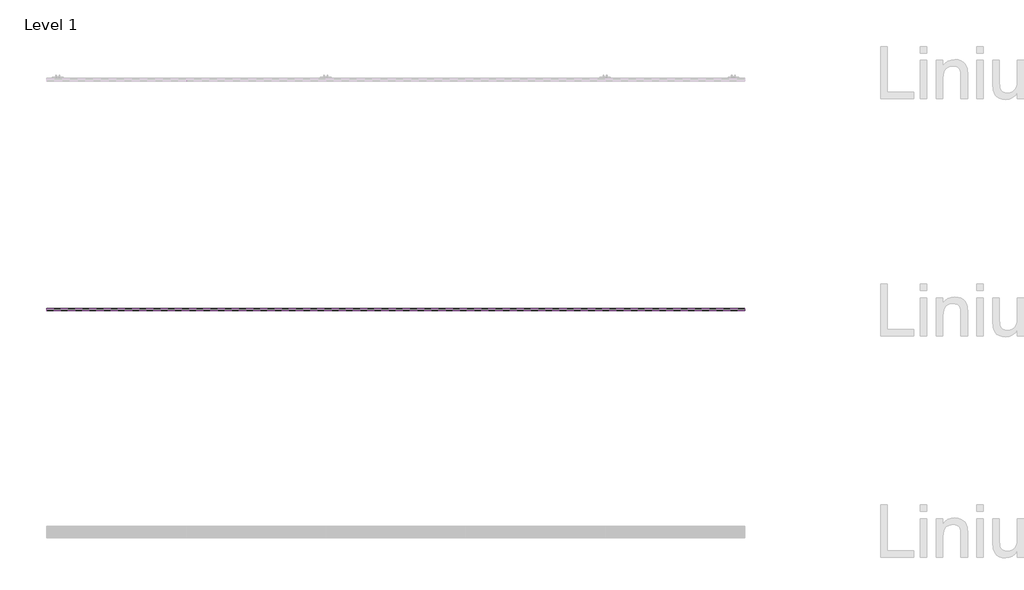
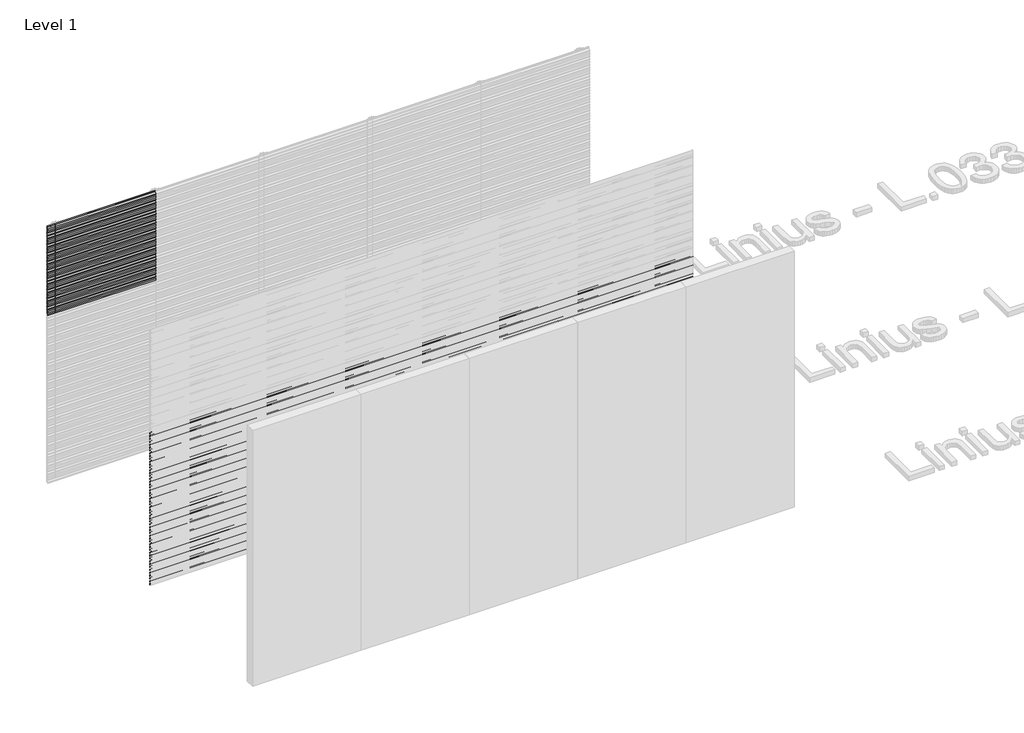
# One storey, part 12 of 507: 85 proxies.
"""IFC4 building model written with IfcOpenShell, lengths in millimetres."""

from ifc_helpers import new_model, si_unit, frame, origin, place, context, project, spatial, polyline, outline, extrude, element, save

model = new_model("IFC4")

# Units and contexts
model_context = context("Model", 3, world=origin())
ifc_project = project(units=[si_unit("LENGTHUNIT", "METRE", prefix="MILLI")], contexts=[model_context])

# Site, building, storey
site = spatial("IfcSite", under=ifc_project)
building = spatial("IfcBuilding", under=site)
storey = spatial("IfcBuildingStorey", under=building, Name="Level 1", Elevation=0.0)

# Proxies
placement = place(None, origin())
element("IfcBuildingElementProxy", 1, Name="Wall Sweeps", at=placement, inside=storey, context=model_context, shape_type="SweptSolid", body=[
    extrude(outline(polyline([(6962.6270068, 2973.0), (6981.7770068, 2984.0562577), (6981.7770068, 2997.0), (6983.0270068, 2997.0), (6983.0270068, 2983.3345698), (6963.8770068, 2972.2782281), (6963.8770068, 2960.2216933), (6962.6270068, 2959.5), (6962.6270068, 2973.0)])), frame((44966.6208097, 0.0, 0.0), z_axis=(1.0, 0.0, 0.0), x_axis=(0.0, 1.0, 0.0)), (0.0, 0.0, 1.0), 1200.0000002),
])
element("IfcBuildingElementProxy", 2, Name="Wall Sweeps", at=placement, inside=storey, context=model_context, shape_type="SweptSolid", body=[
    extrude(outline(polyline([(6962.6270068, 2939.7), (6981.7770068, 2950.7562577), (6981.7770068, 2963.7), (6983.0270068, 2963.7), (6983.0270068, 2950.0345698), (6963.8770068, 2938.9782281), (6963.8770068, 2926.9216933), (6962.6270068, 2926.2), (6962.6270068, 2939.7)])), frame((44966.6208097, 0.0, 0.0), z_axis=(1.0, 0.0, 0.0), x_axis=(0.0, 1.0, 0.0)), (0.0, 0.0, 1.0), 1200.0000002),
])
element("IfcBuildingElementProxy", 3, Name="Wall Sweeps", at=placement, inside=storey, context=model_context, shape_type="SweptSolid", body=[
    extrude(outline(polyline([(6962.6270068, 2906.4), (6981.7770068, 2917.4562577), (6981.7770068, 2930.4), (6983.0270068, 2930.4), (6983.0270068, 2916.7345698), (6963.8770068, 2905.6782281), (6963.8770068, 2893.6216933), (6962.6270068, 2892.9), (6962.6270068, 2906.4)])), frame((44966.6208097, 0.0, 0.0), z_axis=(1.0, 0.0, 0.0), x_axis=(0.0, 1.0, 0.0)), (0.0, 0.0, 1.0), 1200.0000002),
])
element("IfcBuildingElementProxy", 4, Name="Wall Sweeps", at=placement, inside=storey, context=model_context, shape_type="SweptSolid", body=[
    extrude(outline(polyline([(6962.6270068, 2873.1), (6981.7770068, 2884.1562577), (6981.7770068, 2897.1), (6983.0270068, 2897.1), (6983.0270068, 2883.4345698), (6963.8770068, 2872.3782281), (6963.8770068, 2860.3216933), (6962.6270068, 2859.6), (6962.6270068, 2873.1)])), frame((44966.6208097, 0.0, 0.0), z_axis=(1.0, 0.0, 0.0), x_axis=(0.0, 1.0, 0.0)), (0.0, 0.0, 1.0), 1200.0000002),
])
element("IfcBuildingElementProxy", 5, Name="Wall Sweeps", at=placement, inside=storey, context=model_context, shape_type="SweptSolid", body=[
    extrude(outline(polyline([(6962.6270068, 2839.8), (6981.7770068, 2850.8562577), (6981.7770068, 2863.8), (6983.0270068, 2863.8), (6983.0270068, 2850.1345698), (6963.8770068, 2839.0782281), (6963.8770068, 2827.0216933), (6962.6270068, 2826.3), (6962.6270068, 2839.8)])), frame((44966.6208097, 0.0, 0.0), z_axis=(1.0, 0.0, 0.0), x_axis=(0.0, 1.0, 0.0)), (0.0, 0.0, 1.0), 1200.0000002),
])
element("IfcBuildingElementProxy", 6, Name="Wall Sweeps", at=placement, inside=storey, context=model_context, shape_type="SweptSolid", body=[
    extrude(outline(polyline([(6962.6270068, 2806.5), (6981.7770068, 2817.5562577), (6981.7770068, 2830.5), (6983.0270068, 2830.5), (6983.0270068, 2816.8345698), (6963.8770068, 2805.7782281), (6963.8770068, 2793.7216933), (6962.6270068, 2793.0), (6962.6270068, 2806.5)])), frame((44966.6208097, 0.0, 0.0), z_axis=(1.0, 0.0, 0.0), x_axis=(0.0, 1.0, 0.0)), (0.0, 0.0, 1.0), 1200.0000002),
])
element("IfcBuildingElementProxy", 7, Name="Wall Sweeps", at=placement, inside=storey, context=model_context, shape_type="SweptSolid", body=[
    extrude(outline(polyline([(6962.6270068, 2773.2), (6981.7770068, 2784.2562577), (6981.7770068, 2797.2), (6983.0270068, 2797.2), (6983.0270068, 2783.5345698), (6963.8770068, 2772.4782281), (6963.8770068, 2760.4216933), (6962.6270068, 2759.7), (6962.6270068, 2773.2)])), frame((44966.6208097, 0.0, 0.0), z_axis=(1.0, 0.0, 0.0), x_axis=(0.0, 1.0, 0.0)), (0.0, 0.0, 1.0), 1200.0000002),
])
element("IfcBuildingElementProxy", 8, Name="Wall Sweeps", at=placement, inside=storey, context=model_context, shape_type="SweptSolid", body=[
    extrude(outline(polyline([(6962.6270068, 2739.9), (6981.7770068, 2750.9562577), (6981.7770068, 2763.9), (6983.0270068, 2763.9), (6983.0270068, 2750.2345698), (6963.8770068, 2739.1782281), (6963.8770068, 2727.1216933), (6962.6270068, 2726.4), (6962.6270068, 2739.9)])), frame((44966.6208097, 0.0, 0.0), z_axis=(1.0, 0.0, 0.0), x_axis=(0.0, 1.0, 0.0)), (0.0, 0.0, 1.0), 1200.0000002),
])
element("IfcBuildingElementProxy", 9, Name="Wall Sweeps", at=placement, inside=storey, context=model_context, shape_type="SweptSolid", body=[
    extrude(outline(polyline([(6962.6270068, 2706.6), (6981.7770068, 2717.6562577), (6981.7770068, 2730.6), (6983.0270068, 2730.6), (6983.0270068, 2716.9345698), (6963.8770068, 2705.8782281), (6963.8770068, 2693.8216933), (6962.6270068, 2693.1), (6962.6270068, 2706.6)])), frame((44966.6208097, 0.0, 0.0), z_axis=(1.0, 0.0, 0.0), x_axis=(0.0, 1.0, 0.0)), (0.0, 0.0, 1.0), 1200.0000002),
])
element("IfcBuildingElementProxy", 10, Name="Wall Sweeps", at=placement, inside=storey, context=model_context, shape_type="SweptSolid", body=[
    extrude(outline(polyline([(6962.6270068, 2673.3), (6981.7770068, 2684.3562577), (6981.7770068, 2697.3), (6983.0270068, 2697.3), (6983.0270068, 2683.6345698), (6963.8770068, 2672.5782281), (6963.8770068, 2660.5216933), (6962.6270068, 2659.8), (6962.6270068, 2673.3)])), frame((44966.6208097, 0.0, 0.0), z_axis=(1.0, 0.0, 0.0), x_axis=(0.0, 1.0, 0.0)), (0.0, 0.0, 1.0), 1200.0000002),
])
element("IfcBuildingElementProxy", 11, Name="Wall Sweeps", at=placement, inside=storey, context=model_context, shape_type="SweptSolid", body=[
    extrude(outline(polyline([(6962.6270068, 2640.0), (6981.7770068, 2651.0562577), (6981.7770068, 2664.0), (6983.0270068, 2664.0), (6983.0270068, 2650.3345698), (6963.8770068, 2639.2782281), (6963.8770068, 2627.2216933), (6962.6270068, 2626.5), (6962.6270068, 2640.0)])), frame((44966.6208097, 0.0, 0.0), z_axis=(1.0, 0.0, 0.0), x_axis=(0.0, 1.0, 0.0)), (0.0, 0.0, 1.0), 1200.0000002),
])
element("IfcBuildingElementProxy", 12, Name="Wall Sweeps", at=placement, inside=storey, context=model_context, shape_type="SweptSolid", body=[
    extrude(outline(polyline([(6962.6270068, 2606.7), (6981.7770068, 2617.7562577), (6981.7770068, 2630.7), (6983.0270068, 2630.7), (6983.0270068, 2617.0345698), (6963.8770068, 2605.9782281), (6963.8770068, 2593.9216933), (6962.6270068, 2593.2), (6962.6270068, 2606.7)])), frame((44966.6208097, 0.0, 0.0), z_axis=(1.0, 0.0, 0.0), x_axis=(0.0, 1.0, 0.0)), (0.0, 0.0, 1.0), 1200.0000002),
])
element("IfcBuildingElementProxy", 13, Name="Wall Sweeps", at=placement, inside=storey, context=model_context, shape_type="SweptSolid", body=[
    extrude(outline(polyline([(6962.6270068, 2573.4), (6981.7770068, 2584.4562577), (6981.7770068, 2597.4), (6983.0270068, 2597.4), (6983.0270068, 2583.7345698), (6963.8770068, 2572.6782281), (6963.8770068, 2560.6216933), (6962.6270068, 2559.9), (6962.6270068, 2573.4)])), frame((44966.6208097, 0.0, 0.0), z_axis=(1.0, 0.0, 0.0), x_axis=(0.0, 1.0, 0.0)), (0.0, 0.0, 1.0), 1200.0000002),
])
element("IfcBuildingElementProxy", 14, Name="Wall Sweeps", at=placement, inside=storey, context=model_context, shape_type="SweptSolid", body=[
    extrude(outline(polyline([(6962.6270068, 2540.1), (6981.7770068, 2551.1562577), (6981.7770068, 2564.1), (6983.0270068, 2564.1), (6983.0270068, 2550.4345698), (6963.8770068, 2539.3782281), (6963.8770068, 2527.3216933), (6962.6270068, 2526.6), (6962.6270068, 2540.1)])), frame((44966.6208097, 0.0, 0.0), z_axis=(1.0, 0.0, 0.0), x_axis=(0.0, 1.0, 0.0)), (0.0, 0.0, 1.0), 1200.0000002),
])
element("IfcBuildingElementProxy", 15, Name="Wall Sweeps", at=placement, inside=storey, context=model_context, shape_type="SweptSolid", body=[
    extrude(outline(polyline([(6962.6270068, 2506.8), (6981.7770068, 2517.8562577), (6981.7770068, 2530.8), (6983.0270068, 2530.8), (6983.0270068, 2517.1345698), (6963.8770068, 2506.0782281), (6963.8770068, 2494.0216933), (6962.6270068, 2493.3), (6962.6270068, 2506.8)])), frame((44966.6208097, 0.0, 0.0), z_axis=(1.0, 0.0, 0.0), x_axis=(0.0, 1.0, 0.0)), (0.0, 0.0, 1.0), 1200.0000002),
])
element("IfcBuildingElementProxy", 16, Name="Wall Sweeps", at=placement, inside=storey, context=model_context, shape_type="SweptSolid", body=[
    extrude(outline(polyline([(6962.6270068, 2473.5), (6981.7770068, 2484.5562577), (6981.7770068, 2497.5), (6983.0270068, 2497.5), (6983.0270068, 2483.8345698), (6963.8770068, 2472.7782281), (6963.8770068, 2460.7216933), (6962.6270068, 2460.0), (6962.6270068, 2473.5)])), frame((44966.6208097, 0.0, 0.0), z_axis=(1.0, 0.0, 0.0), x_axis=(0.0, 1.0, 0.0)), (0.0, 0.0, 1.0), 1200.0000002),
])
element("IfcBuildingElementProxy", 17, Name="Wall Sweeps", at=placement, inside=storey, context=model_context, shape_type="SweptSolid", body=[
    extrude(outline(polyline([(6962.6270068, 2440.2), (6981.7770068, 2451.2562577), (6981.7770068, 2464.2), (6983.0270068, 2464.2), (6983.0270068, 2450.5345698), (6963.8770068, 2439.4782281), (6963.8770068, 2427.4216933), (6962.6270068, 2426.7), (6962.6270068, 2440.2)])), frame((44966.6208097, 0.0, 0.0), z_axis=(1.0, 0.0, 0.0), x_axis=(0.0, 1.0, 0.0)), (0.0, 0.0, 1.0), 1200.0000002),
])
element("IfcBuildingElementProxy", 18, Name="Wall Sweeps", at=placement, inside=storey, context=model_context, shape_type="SweptSolid", body=[
    extrude(outline(polyline([(6962.6270068, 2406.9), (6981.7770068, 2417.9562577), (6981.7770068, 2430.9), (6983.0270068, 2430.9), (6983.0270068, 2417.2345698), (6963.8770068, 2406.1782281), (6963.8770068, 2394.1216933), (6962.6270068, 2393.4), (6962.6270068, 2406.9)])), frame((44966.6208097, 0.0, 0.0), z_axis=(1.0, 0.0, 0.0), x_axis=(0.0, 1.0, 0.0)), (0.0, 0.0, 1.0), 1200.0000002),
])
element("IfcBuildingElementProxy", 19, Name="Wall Sweeps", at=placement, inside=storey, context=model_context, shape_type="SweptSolid", body=[
    extrude(outline(polyline([(6962.6270068, 2373.6), (6981.7770068, 2384.6562577), (6981.7770068, 2397.6), (6983.0270068, 2397.6), (6983.0270068, 2383.9345698), (6963.8770068, 2372.8782281), (6963.8770068, 2360.8216933), (6962.6270068, 2360.1), (6962.6270068, 2373.6)])), frame((44966.6208097, 0.0, 0.0), z_axis=(1.0, 0.0, 0.0), x_axis=(0.0, 1.0, 0.0)), (0.0, 0.0, 1.0), 1200.0000002),
])
element("IfcBuildingElementProxy", 20, Name="Wall Sweeps", at=placement, inside=storey, context=model_context, shape_type="SweptSolid", body=[
    extrude(outline(polyline([(6962.6270068, 2340.3), (6981.7770068, 2351.3562577), (6981.7770068, 2364.3), (6983.0270068, 2364.3), (6983.0270068, 2350.6345698), (6963.8770068, 2339.5782281), (6963.8770068, 2327.5216933), (6962.6270068, 2326.8), (6962.6270068, 2340.3)])), frame((44966.6208097, 0.0, 0.0), z_axis=(1.0, 0.0, 0.0), x_axis=(0.0, 1.0, 0.0)), (0.0, 0.0, 1.0), 1200.0000002),
])
element("IfcBuildingElementProxy", 21, Name="Wall Sweeps", at=placement, inside=storey, context=model_context, shape_type="SweptSolid", body=[
    extrude(outline(polyline([(6962.6270068, 2307.0), (6981.7770068, 2318.0562577), (6981.7770068, 2331.0), (6983.0270068, 2331.0), (6983.0270068, 2317.3345698), (6963.8770068, 2306.2782281), (6963.8770068, 2294.2216933), (6962.6270068, 2293.5), (6962.6270068, 2307.0)])), frame((44966.6208097, 0.0, 0.0), z_axis=(1.0, 0.0, 0.0), x_axis=(0.0, 1.0, 0.0)), (0.0, 0.0, 1.0), 1200.0000002),
])
element("IfcBuildingElementProxy", 22, Name="Wall Sweeps", at=placement, inside=storey, context=model_context, shape_type="SweptSolid", body=[
    extrude(outline(polyline([(6962.6270068, 2273.7), (6981.7770068, 2284.7562577), (6981.7770068, 2297.7), (6983.0270068, 2297.7), (6983.0270068, 2284.0345698), (6963.8770068, 2272.9782281), (6963.8770068, 2260.9216933), (6962.6270068, 2260.2), (6962.6270068, 2273.7)])), frame((44966.6208097, 0.0, 0.0), z_axis=(1.0, 0.0, 0.0), x_axis=(0.0, 1.0, 0.0)), (0.0, 0.0, 1.0), 1200.0000002),
])
element("IfcBuildingElementProxy", 23, Name="Wall Sweeps", at=placement, inside=storey, context=model_context, shape_type="SweptSolid", body=[
    extrude(outline(polyline([(6962.6270068, 2240.4), (6981.7770068, 2251.4562577), (6981.7770068, 2264.4), (6983.0270068, 2264.4), (6983.0270068, 2250.7345698), (6963.8770068, 2239.6782281), (6963.8770068, 2227.6216933), (6962.6270068, 2226.9), (6962.6270068, 2240.4)])), frame((44966.6208097, 0.0, 0.0), z_axis=(1.0, 0.0, 0.0), x_axis=(0.0, 1.0, 0.0)), (0.0, 0.0, 1.0), 1200.0000002),
])
element("IfcBuildingElementProxy", 24, Name="Wall Sweeps", at=placement, inside=storey, context=model_context, shape_type="SweptSolid", body=[
    extrude(outline(polyline([(6962.6270068, 2207.1), (6981.7770068, 2218.1562577), (6981.7770068, 2231.1), (6983.0270068, 2231.1), (6983.0270068, 2217.4345698), (6963.8770068, 2206.3782281), (6963.8770068, 2194.3216933), (6962.6270068, 2193.6), (6962.6270068, 2207.1)])), frame((44966.6208097, 0.0, 0.0), z_axis=(1.0, 0.0, 0.0), x_axis=(0.0, 1.0, 0.0)), (0.0, 0.0, 1.0), 1200.0000002),
])
element("IfcBuildingElementProxy", 25, Name="Wall Sweeps", at=placement, inside=storey, context=model_context, shape_type="SweptSolid", body=[
    extrude(outline(polyline([(6962.6270068, 2173.8), (6981.7770068, 2184.8562577), (6981.7770068, 2197.8), (6983.0270068, 2197.8), (6983.0270068, 2184.1345698), (6963.8770068, 2173.0782281), (6963.8770068, 2161.0216933), (6962.6270068, 2160.3), (6962.6270068, 2173.8)])), frame((44966.6208097, 0.0, 0.0), z_axis=(1.0, 0.0, 0.0), x_axis=(0.0, 1.0, 0.0)), (0.0, 0.0, 1.0), 1200.0000002),
])
element("IfcBuildingElementProxy", 26, Name="Wall Sweeps", at=placement, inside=storey, context=model_context, shape_type="SweptSolid", body=[
    extrude(outline(polyline([(6962.6270068, 2140.5), (6981.7770068, 2151.5562577), (6981.7770068, 2164.5), (6983.0270068, 2164.5), (6983.0270068, 2150.8345698), (6963.8770068, 2139.7782281), (6963.8770068, 2127.7216933), (6962.6270068, 2127.0), (6962.6270068, 2140.5)])), frame((44966.6208097, 0.0, 0.0), z_axis=(1.0, 0.0, 0.0), x_axis=(0.0, 1.0, 0.0)), (0.0, 0.0, 1.0), 1200.0000002),
])
element("IfcBuildingElementProxy", 27, Name="Wall Sweeps", at=placement, inside=storey, context=model_context, shape_type="SweptSolid", body=[
    extrude(outline(polyline([(6962.6270068, 2107.2), (6981.7770068, 2118.2562577), (6981.7770068, 2131.2), (6983.0270068, 2131.2), (6983.0270068, 2117.5345698), (6963.8770068, 2106.4782281), (6963.8770068, 2094.4216933), (6962.6270068, 2093.7), (6962.6270068, 2107.2)])), frame((44966.6208097, 0.0, 0.0), z_axis=(1.0, 0.0, 0.0), x_axis=(0.0, 1.0, 0.0)), (0.0, 0.0, 1.0), 1200.0000002),
])
element("IfcBuildingElementProxy", 28, Name="Wall Sweeps", at=placement, inside=storey, context=model_context, shape_type="SweptSolid", body=[
    extrude(outline(polyline([(6962.6270068, 2073.9), (6981.7770068, 2084.9562577), (6981.7770068, 2097.9), (6983.0270068, 2097.9), (6983.0270068, 2084.2345698), (6963.8770068, 2073.1782281), (6963.8770068, 2061.1216933), (6962.6270068, 2060.4), (6962.6270068, 2073.9)])), frame((44966.6208097, 0.0, 0.0), z_axis=(1.0, 0.0, 0.0), x_axis=(0.0, 1.0, 0.0)), (0.0, 0.0, 1.0), 1200.0000002),
])
element("IfcBuildingElementProxy", 29, Name="Wall Sweeps", at=placement, inside=storey, context=model_context, shape_type="SweptSolid", body=[
    extrude(outline(polyline([(6962.6270068, 2040.6), (6981.7770068, 2051.6562577), (6981.7770068, 2064.6), (6983.0270068, 2064.6), (6983.0270068, 2050.9345698), (6963.8770068, 2039.8782281), (6963.8770068, 2027.8216933), (6962.6270068, 2027.1), (6962.6270068, 2040.6)])), frame((44966.6208097, 0.0, 0.0), z_axis=(1.0, 0.0, 0.0), x_axis=(0.0, 1.0, 0.0)), (0.0, 0.0, 1.0), 1200.0000002),
])
element("IfcBuildingElementProxy", 30, Name="Wall Sweeps", at=placement, inside=storey, context=model_context, shape_type="SweptSolid", body=[
    extrude(outline(polyline([(6962.6270068, 2007.3), (6981.7770068, 2018.3562577), (6981.7770068, 2031.3), (6983.0270068, 2031.3), (6983.0270068, 2017.6345698), (6963.8770068, 2006.5782281), (6963.8770068, 1994.5216933), (6962.6270068, 1993.8), (6962.6270068, 2007.3)])), frame((44966.6208097, 0.0, 0.0), z_axis=(1.0, 0.0, 0.0), x_axis=(0.0, 1.0, 0.0)), (0.0, 0.0, 1.0), 1200.0000002),
])
element("IfcBuildingElementProxy", 31, Name="Wall Sweeps", at=placement, inside=storey, context=model_context, shape_type="SweptSolid", body=[
    extrude(outline(polyline([(6962.6270068, 1974.0), (6981.7770068, 1985.0562577), (6981.7770068, 1998.0), (6983.0270068, 1998.0), (6983.0270068, 1984.3345698), (6963.8770068, 1973.2782281), (6963.8770068, 1961.2216933), (6962.6270068, 1960.5), (6962.6270068, 1974.0)])), frame((44966.6208097, 0.0, 0.0), z_axis=(1.0, 0.0, 0.0), x_axis=(0.0, 1.0, 0.0)), (0.0, 0.0, 1.0), 1200.0000002),
])
element("IfcBuildingElementProxy", 32, Name="Wall Sweeps", at=placement, inside=storey, context=model_context, shape_type="SweptSolid", body=[
    extrude(outline(polyline([(5007.4270068, 1774.2), (5007.4270068, 1760.7), (5006.1770068, 1761.4216933), (5006.1770068, 1773.4782281), (4987.0270068, 1784.5345698), (4987.0270068, 1798.2), (4988.2770068, 1798.2), (4988.2770068, 1785.2562577), (5007.4270068, 1774.2)])), frame((44966.6208097, 0.0, 0.0), z_axis=(1.0, 0.0, 0.0), x_axis=(0.0, 1.0, 0.0)), (0.0, 0.0, 1.0), 6000.0),
])
element("IfcBuildingElementProxy", 33, Name="Wall Sweeps", at=placement, inside=storey, context=model_context, shape_type="SweptSolid", body=[
    extrude(outline(polyline([(5007.4270068, 1740.9), (5007.4270068, 1727.4), (5006.1770068, 1728.1216933), (5006.1770068, 1740.1782281), (4987.0270068, 1751.2345698), (4987.0270068, 1764.9), (4988.2770068, 1764.9), (4988.2770068, 1751.9562577), (5007.4270068, 1740.9)])), frame((44966.6208097, 0.0, 0.0), z_axis=(1.0, 0.0, 0.0), x_axis=(0.0, 1.0, 0.0)), (0.0, 0.0, 1.0), 6000.0),
])
element("IfcBuildingElementProxy", 34, Name="Wall Sweeps", at=placement, inside=storey, context=model_context, shape_type="SweptSolid", body=[
    extrude(outline(polyline([(5007.4270068, 1707.6), (5007.4270068, 1694.1), (5006.1770068, 1694.8216933), (5006.1770068, 1706.8782281), (4987.0270068, 1717.9345698), (4987.0270068, 1731.6), (4988.2770068, 1731.6), (4988.2770068, 1718.6562577), (5007.4270068, 1707.6)])), frame((44966.6208097, 0.0, 0.0), z_axis=(1.0, 0.0, 0.0), x_axis=(0.0, 1.0, 0.0)), (0.0, 0.0, 1.0), 6000.0),
])
element("IfcBuildingElementProxy", 35, Name="Wall Sweeps", at=placement, inside=storey, context=model_context, shape_type="SweptSolid", body=[
    extrude(outline(polyline([(5007.4270068, 1674.3), (5007.4270068, 1660.8), (5006.1770068, 1661.5216933), (5006.1770068, 1673.5782281), (4987.0270068, 1684.6345698), (4987.0270068, 1698.3), (4988.2770068, 1698.3), (4988.2770068, 1685.3562577), (5007.4270068, 1674.3)])), frame((44966.6208097, 0.0, 0.0), z_axis=(1.0, 0.0, 0.0), x_axis=(0.0, 1.0, 0.0)), (0.0, 0.0, 1.0), 6000.0),
])
element("IfcBuildingElementProxy", 36, Name="Wall Sweeps", at=placement, inside=storey, context=model_context, shape_type="SweptSolid", body=[
    extrude(outline(polyline([(5007.4270068, 1641.0), (5007.4270068, 1627.5), (5006.1770068, 1628.2216933), (5006.1770068, 1640.2782281), (4987.0270068, 1651.3345698), (4987.0270068, 1665.0), (4988.2770068, 1665.0), (4988.2770068, 1652.0562577), (5007.4270068, 1641.0)])), frame((44966.6208097, 0.0, 0.0), z_axis=(1.0, 0.0, 0.0), x_axis=(0.0, 1.0, 0.0)), (0.0, 0.0, 1.0), 6000.0),
])
element("IfcBuildingElementProxy", 37, Name="Wall Sweeps", at=placement, inside=storey, context=model_context, shape_type="SweptSolid", body=[
    extrude(outline(polyline([(5007.4270068, 1607.7), (5007.4270068, 1594.2), (5006.1770068, 1594.9216933), (5006.1770068, 1606.9782281), (4987.0270068, 1618.0345698), (4987.0270068, 1631.7), (4988.2770068, 1631.7), (4988.2770068, 1618.7562577), (5007.4270068, 1607.7)])), frame((44966.6208097, 0.0, 0.0), z_axis=(1.0, 0.0, 0.0), x_axis=(0.0, 1.0, 0.0)), (0.0, 0.0, 1.0), 6000.0),
])
element("IfcBuildingElementProxy", 38, Name="Wall Sweeps", at=placement, inside=storey, context=model_context, shape_type="SweptSolid", body=[
    extrude(outline(polyline([(5007.4270068, 1574.4), (5007.4270068, 1560.9), (5006.1770068, 1561.6216933), (5006.1770068, 1573.6782281), (4987.0270068, 1584.7345698), (4987.0270068, 1598.4), (4988.2770068, 1598.4), (4988.2770068, 1585.4562577), (5007.4270068, 1574.4)])), frame((44966.6208097, 0.0, 0.0), z_axis=(1.0, 0.0, 0.0), x_axis=(0.0, 1.0, 0.0)), (0.0, 0.0, 1.0), 6000.0),
])
element("IfcBuildingElementProxy", 39, Name="Wall Sweeps", at=placement, inside=storey, context=model_context, shape_type="SweptSolid", body=[
    extrude(outline(polyline([(5007.4270068, 1541.1), (5007.4270068, 1527.6), (5006.1770068, 1528.3216933), (5006.1770068, 1540.3782281), (4987.0270068, 1551.4345698), (4987.0270068, 1565.1), (4988.2770068, 1565.1), (4988.2770068, 1552.1562577), (5007.4270068, 1541.1)])), frame((44966.6208097, 0.0, 0.0), z_axis=(1.0, 0.0, 0.0), x_axis=(0.0, 1.0, 0.0)), (0.0, 0.0, 1.0), 6000.0),
])
element("IfcBuildingElementProxy", 40, Name="Wall Sweeps", at=placement, inside=storey, context=model_context, shape_type="SweptSolid", body=[
    extrude(outline(polyline([(5007.4270068, 1507.8), (5007.4270068, 1494.3), (5006.1770068, 1495.0216933), (5006.1770068, 1507.0782281), (4987.0270068, 1518.1345698), (4987.0270068, 1531.8), (4988.2770068, 1531.8), (4988.2770068, 1518.8562577), (5007.4270068, 1507.8)])), frame((44966.6208097, 0.0, 0.0), z_axis=(1.0, 0.0, 0.0), x_axis=(0.0, 1.0, 0.0)), (0.0, 0.0, 1.0), 6000.0),
])
element("IfcBuildingElementProxy", 41, Name="Wall Sweeps", at=placement, inside=storey, context=model_context, shape_type="SweptSolid", body=[
    extrude(outline(polyline([(5007.4270068, 1474.5), (5007.4270068, 1461.0), (5006.1770068, 1461.7216933), (5006.1770068, 1473.7782281), (4987.0270068, 1484.8345698), (4987.0270068, 1498.5), (4988.2770068, 1498.5), (4988.2770068, 1485.5562577), (5007.4270068, 1474.5)])), frame((44966.6208097, 0.0, 0.0), z_axis=(1.0, 0.0, 0.0), x_axis=(0.0, 1.0, 0.0)), (0.0, 0.0, 1.0), 6000.0),
])
element("IfcBuildingElementProxy", 42, Name="Wall Sweeps", at=placement, inside=storey, context=model_context, shape_type="SweptSolid", body=[
    extrude(outline(polyline([(5007.4270068, 1441.2), (5007.4270068, 1427.7), (5006.1770068, 1428.4216933), (5006.1770068, 1440.4782281), (4987.0270068, 1451.5345698), (4987.0270068, 1465.2), (4988.2770068, 1465.2), (4988.2770068, 1452.2562577), (5007.4270068, 1441.2)])), frame((44966.6208097, 0.0, 0.0), z_axis=(1.0, 0.0, 0.0), x_axis=(0.0, 1.0, 0.0)), (0.0, 0.0, 1.0), 6000.0),
])
element("IfcBuildingElementProxy", 43, Name="Wall Sweeps", at=placement, inside=storey, context=model_context, shape_type="SweptSolid", body=[
    extrude(outline(polyline([(5007.4270068, 1407.9), (5007.4270068, 1394.4), (5006.1770068, 1395.1216933), (5006.1770068, 1407.1782281), (4987.0270068, 1418.2345698), (4987.0270068, 1431.9), (4988.2770068, 1431.9), (4988.2770068, 1418.9562577), (5007.4270068, 1407.9)])), frame((44966.6208097, 0.0, 0.0), z_axis=(1.0, 0.0, 0.0), x_axis=(0.0, 1.0, 0.0)), (0.0, 0.0, 1.0), 6000.0),
])
element("IfcBuildingElementProxy", 44, Name="Wall Sweeps", at=placement, inside=storey, context=model_context, shape_type="SweptSolid", body=[
    extrude(outline(polyline([(5007.4270068, 1374.6), (5007.4270068, 1361.1), (5006.1770068, 1361.8216933), (5006.1770068, 1373.8782281), (4987.0270068, 1384.9345698), (4987.0270068, 1398.6), (4988.2770068, 1398.6), (4988.2770068, 1385.6562577), (5007.4270068, 1374.6)])), frame((44966.6208097, 0.0, 0.0), z_axis=(1.0, 0.0, 0.0), x_axis=(0.0, 1.0, 0.0)), (0.0, 0.0, 1.0), 6000.0),
])
element("IfcBuildingElementProxy", 45, Name="Wall Sweeps", at=placement, inside=storey, context=model_context, shape_type="SweptSolid", body=[
    extrude(outline(polyline([(5007.4270068, 1341.3), (5007.4270068, 1327.8), (5006.1770068, 1328.5216933), (5006.1770068, 1340.5782281), (4987.0270068, 1351.6345698), (4987.0270068, 1365.3), (4988.2770068, 1365.3), (4988.2770068, 1352.3562577), (5007.4270068, 1341.3)])), frame((44966.6208097, 0.0, 0.0), z_axis=(1.0, 0.0, 0.0), x_axis=(0.0, 1.0, 0.0)), (0.0, 0.0, 1.0), 6000.0),
])
element("IfcBuildingElementProxy", 46, Name="Wall Sweeps", at=placement, inside=storey, context=model_context, shape_type="SweptSolid", body=[
    extrude(outline(polyline([(5007.4270068, 1308.0), (5007.4270068, 1294.5), (5006.1770068, 1295.2216933), (5006.1770068, 1307.2782281), (4987.0270068, 1318.3345698), (4987.0270068, 1332.0), (4988.2770068, 1332.0), (4988.2770068, 1319.0562577), (5007.4270068, 1308.0)])), frame((44966.6208097, 0.0, 0.0), z_axis=(1.0, 0.0, 0.0), x_axis=(0.0, 1.0, 0.0)), (0.0, 0.0, 1.0), 6000.0),
])
element("IfcBuildingElementProxy", 47, Name="Wall Sweeps", at=placement, inside=storey, context=model_context, shape_type="SweptSolid", body=[
    extrude(outline(polyline([(5007.4270068, 1274.7), (5007.4270068, 1261.2), (5006.1770068, 1261.9216933), (5006.1770068, 1273.9782281), (4987.0270068, 1285.0345698), (4987.0270068, 1298.7), (4988.2770068, 1298.7), (4988.2770068, 1285.7562577), (5007.4270068, 1274.7)])), frame((44966.6208097, 0.0, 0.0), z_axis=(1.0, 0.0, 0.0), x_axis=(0.0, 1.0, 0.0)), (0.0, 0.0, 1.0), 6000.0),
])
element("IfcBuildingElementProxy", 48, Name="Wall Sweeps", at=placement, inside=storey, context=model_context, shape_type="SweptSolid", body=[
    extrude(outline(polyline([(5007.4270068, 1241.4), (5007.4270068, 1227.9), (5006.1770068, 1228.6216933), (5006.1770068, 1240.6782281), (4987.0270068, 1251.7345698), (4987.0270068, 1265.4), (4988.2770068, 1265.4), (4988.2770068, 1252.4562577), (5007.4270068, 1241.4)])), frame((44966.6208097, 0.0, 0.0), z_axis=(1.0, 0.0, 0.0), x_axis=(0.0, 1.0, 0.0)), (0.0, 0.0, 1.0), 6000.0),
])
element("IfcBuildingElementProxy", 49, Name="Wall Sweeps", at=placement, inside=storey, context=model_context, shape_type="SweptSolid", body=[
    extrude(outline(polyline([(5007.4270068, 1208.1), (5007.4270068, 1194.6), (5006.1770068, 1195.3216933), (5006.1770068, 1207.3782281), (4987.0270068, 1218.4345698), (4987.0270068, 1232.1), (4988.2770068, 1232.1), (4988.2770068, 1219.1562577), (5007.4270068, 1208.1)])), frame((44966.6208097, 0.0, 0.0), z_axis=(1.0, 0.0, 0.0), x_axis=(0.0, 1.0, 0.0)), (0.0, 0.0, 1.0), 6000.0),
])
element("IfcBuildingElementProxy", 50, Name="Wall Sweeps", at=placement, inside=storey, context=model_context, shape_type="SweptSolid", body=[
    extrude(outline(polyline([(5007.4270068, 1174.8), (5007.4270068, 1161.3), (5006.1770068, 1162.0216933), (5006.1770068, 1174.0782281), (4987.0270068, 1185.1345698), (4987.0270068, 1198.8), (4988.2770068, 1198.8), (4988.2770068, 1185.8562577), (5007.4270068, 1174.8)])), frame((44966.6208097, 0.0, 0.0), z_axis=(1.0, 0.0, 0.0), x_axis=(0.0, 1.0, 0.0)), (0.0, 0.0, 1.0), 6000.0),
])
element("IfcBuildingElementProxy", 51, Name="Wall Sweeps", at=placement, inside=storey, context=model_context, shape_type="SweptSolid", body=[
    extrude(outline(polyline([(5007.4270068, 1141.5), (5007.4270068, 1128.0), (5006.1770068, 1128.7216933), (5006.1770068, 1140.7782281), (4987.0270068, 1151.8345698), (4987.0270068, 1165.5), (4988.2770068, 1165.5), (4988.2770068, 1152.5562577), (5007.4270068, 1141.5)])), frame((44966.6208097, 0.0, 0.0), z_axis=(1.0, 0.0, 0.0), x_axis=(0.0, 1.0, 0.0)), (0.0, 0.0, 1.0), 6000.0),
])
element("IfcBuildingElementProxy", 52, Name="Wall Sweeps", at=placement, inside=storey, context=model_context, shape_type="SweptSolid", body=[
    extrude(outline(polyline([(5007.4270068, 1108.2), (5007.4270068, 1094.7), (5006.1770068, 1095.4216933), (5006.1770068, 1107.4782281), (4987.0270068, 1118.5345698), (4987.0270068, 1132.2), (4988.2770068, 1132.2), (4988.2770068, 1119.2562577), (5007.4270068, 1108.2)])), frame((44966.6208097, 0.0, 0.0), z_axis=(1.0, 0.0, 0.0), x_axis=(0.0, 1.0, 0.0)), (0.0, 0.0, 1.0), 6000.0),
])
element("IfcBuildingElementProxy", 53, Name="Wall Sweeps", at=placement, inside=storey, context=model_context, shape_type="SweptSolid", body=[
    extrude(outline(polyline([(5007.4270068, 1074.9), (5007.4270068, 1061.4), (5006.1770068, 1062.1216933), (5006.1770068, 1074.1782281), (4987.0270068, 1085.2345698), (4987.0270068, 1098.9), (4988.2770068, 1098.9), (4988.2770068, 1085.9562577), (5007.4270068, 1074.9)])), frame((44966.6208097, 0.0, 0.0), z_axis=(1.0, 0.0, 0.0), x_axis=(0.0, 1.0, 0.0)), (0.0, 0.0, 1.0), 6000.0),
])
element("IfcBuildingElementProxy", 54, Name="Wall Sweeps", at=placement, inside=storey, context=model_context, shape_type="SweptSolid", body=[
    extrude(outline(polyline([(5007.4270068, 1041.6), (5007.4270068, 1028.1), (5006.1770068, 1028.8216933), (5006.1770068, 1040.8782281), (4987.0270068, 1051.9345698), (4987.0270068, 1065.6), (4988.2770068, 1065.6), (4988.2770068, 1052.6562577), (5007.4270068, 1041.6)])), frame((44966.6208097, 0.0, 0.0), z_axis=(1.0, 0.0, 0.0), x_axis=(0.0, 1.0, 0.0)), (0.0, 0.0, 1.0), 6000.0),
])
element("IfcBuildingElementProxy", 55, Name="Wall Sweeps", at=placement, inside=storey, context=model_context, shape_type="SweptSolid", body=[
    extrude(outline(polyline([(5007.4270068, 1008.3), (5007.4270068, 994.8), (5006.1770068, 995.5216933), (5006.1770068, 1007.5782281), (4987.0270068, 1018.6345698), (4987.0270068, 1032.3), (4988.2770068, 1032.3), (4988.2770068, 1019.3562577), (5007.4270068, 1008.3)])), frame((44966.6208097, 0.0, 0.0), z_axis=(1.0, 0.0, 0.0), x_axis=(0.0, 1.0, 0.0)), (0.0, 0.0, 1.0), 6000.0),
])
element("IfcBuildingElementProxy", 56, Name="Wall Sweeps", at=placement, inside=storey, context=model_context, shape_type="SweptSolid", body=[
    extrude(outline(polyline([(5007.4270068, 975.0), (5007.4270068, 961.5), (5006.1770068, 962.2216933), (5006.1770068, 974.2782281), (4987.0270068, 985.3345698), (4987.0270068, 999.0), (4988.2770068, 999.0), (4988.2770068, 986.0562577), (5007.4270068, 975.0)])), frame((44966.6208097, 0.0, 0.0), z_axis=(1.0, 0.0, 0.0), x_axis=(0.0, 1.0, 0.0)), (0.0, 0.0, 1.0), 6000.0),
])
element("IfcBuildingElementProxy", 57, Name="Wall Sweeps", at=placement, inside=storey, context=model_context, shape_type="SweptSolid", body=[
    extrude(outline(polyline([(5007.4270068, 941.7), (5007.4270068, 928.2), (5006.1770068, 928.9216933), (5006.1770068, 940.9782281), (4987.0270068, 952.0345698), (4987.0270068, 965.7), (4988.2770068, 965.7), (4988.2770068, 952.7562577), (5007.4270068, 941.7)])), frame((44966.6208097, 0.0, 0.0), z_axis=(1.0, 0.0, 0.0), x_axis=(0.0, 1.0, 0.0)), (0.0, 0.0, 1.0), 6000.0),
])
element("IfcBuildingElementProxy", 58, Name="Wall Sweeps", at=placement, inside=storey, context=model_context, shape_type="SweptSolid", body=[
    extrude(outline(polyline([(5007.4270068, 908.4), (5007.4270068, 894.9), (5006.1770068, 895.6216933), (5006.1770068, 907.6782281), (4987.0270068, 918.7345698), (4987.0270068, 932.4), (4988.2770068, 932.4), (4988.2770068, 919.4562577), (5007.4270068, 908.4)])), frame((44966.6208097, 0.0, 0.0), z_axis=(1.0, 0.0, 0.0), x_axis=(0.0, 1.0, 0.0)), (0.0, 0.0, 1.0), 6000.0),
])
element("IfcBuildingElementProxy", 59, Name="Wall Sweeps", at=placement, inside=storey, context=model_context, shape_type="SweptSolid", body=[
    extrude(outline(polyline([(5007.4270068, 875.1), (5007.4270068, 861.6), (5006.1770068, 862.3216933), (5006.1770068, 874.3782281), (4987.0270068, 885.4345698), (4987.0270068, 899.1), (4988.2770068, 899.1), (4988.2770068, 886.1562577), (5007.4270068, 875.1)])), frame((44966.6208097, 0.0, 0.0), z_axis=(1.0, 0.0, 0.0), x_axis=(0.0, 1.0, 0.0)), (0.0, 0.0, 1.0), 6000.0),
])
element("IfcBuildingElementProxy", 60, Name="Wall Sweeps", at=placement, inside=storey, context=model_context, shape_type="SweptSolid", body=[
    extrude(outline(polyline([(5007.4270068, 841.8), (5007.4270068, 828.3), (5006.1770068, 829.0216933), (5006.1770068, 841.0782281), (4987.0270068, 852.1345698), (4987.0270068, 865.8), (4988.2770068, 865.8), (4988.2770068, 852.8562577), (5007.4270068, 841.8)])), frame((44966.6208097, 0.0, 0.0), z_axis=(1.0, 0.0, 0.0), x_axis=(0.0, 1.0, 0.0)), (0.0, 0.0, 1.0), 6000.0),
])
element("IfcBuildingElementProxy", 61, Name="Wall Sweeps", at=placement, inside=storey, context=model_context, shape_type="SweptSolid", body=[
    extrude(outline(polyline([(5007.4270068, 808.5), (5007.4270068, 795.0), (5006.1770068, 795.7216933), (5006.1770068, 807.7782281), (4987.0270068, 818.8345698), (4987.0270068, 832.5), (4988.2770068, 832.5), (4988.2770068, 819.5562577), (5007.4270068, 808.5)])), frame((44966.6208097, 0.0, 0.0), z_axis=(1.0, 0.0, 0.0), x_axis=(0.0, 1.0, 0.0)), (0.0, 0.0, 1.0), 6000.0),
])
element("IfcBuildingElementProxy", 62, Name="Wall Sweeps", at=placement, inside=storey, context=model_context, shape_type="SweptSolid", body=[
    extrude(outline(polyline([(5007.4270068, 775.2), (5007.4270068, 761.7), (5006.1770068, 762.4216933), (5006.1770068, 774.4782281), (4987.0270068, 785.5345698), (4987.0270068, 799.2), (4988.2770068, 799.2), (4988.2770068, 786.2562577), (5007.4270068, 775.2)])), frame((44966.6208097, 0.0, 0.0), z_axis=(1.0, 0.0, 0.0), x_axis=(0.0, 1.0, 0.0)), (0.0, 0.0, 1.0), 6000.0),
])
element("IfcBuildingElementProxy", 63, Name="Wall Sweeps", at=placement, inside=storey, context=model_context, shape_type="SweptSolid", body=[
    extrude(outline(polyline([(5007.4270068, 741.9), (5007.4270068, 728.4), (5006.1770068, 729.1216933), (5006.1770068, 741.1782281), (4987.0270068, 752.2345698), (4987.0270068, 765.9), (4988.2770068, 765.9), (4988.2770068, 752.9562577), (5007.4270068, 741.9)])), frame((44966.6208097, 0.0, 0.0), z_axis=(1.0, 0.0, 0.0), x_axis=(0.0, 1.0, 0.0)), (0.0, 0.0, 1.0), 6000.0),
])
element("IfcBuildingElementProxy", 64, Name="Wall Sweeps", at=placement, inside=storey, context=model_context, shape_type="SweptSolid", body=[
    extrude(outline(polyline([(5007.4270068, 708.6), (5007.4270068, 695.1), (5006.1770068, 695.8216933), (5006.1770068, 707.8782281), (4987.0270068, 718.9345698), (4987.0270068, 732.6), (4988.2770068, 732.6), (4988.2770068, 719.6562577), (5007.4270068, 708.6)])), frame((44966.6208097, 0.0, 0.0), z_axis=(1.0, 0.0, 0.0), x_axis=(0.0, 1.0, 0.0)), (0.0, 0.0, 1.0), 6000.0),
])
element("IfcBuildingElementProxy", 65, Name="Wall Sweeps", at=placement, inside=storey, context=model_context, shape_type="SweptSolid", body=[
    extrude(outline(polyline([(5007.4270068, 675.3), (5007.4270068, 661.8), (5006.1770068, 662.5216933), (5006.1770068, 674.5782281), (4987.0270068, 685.6345698), (4987.0270068, 699.3), (4988.2770068, 699.3), (4988.2770068, 686.3562577), (5007.4270068, 675.3)])), frame((44966.6208097, 0.0, 0.0), z_axis=(1.0, 0.0, 0.0), x_axis=(0.0, 1.0, 0.0)), (0.0, 0.0, 1.0), 6000.0),
])
element("IfcBuildingElementProxy", 66, Name="Wall Sweeps", at=placement, inside=storey, context=model_context, shape_type="SweptSolid", body=[
    extrude(outline(polyline([(5007.4270068, 642.0), (5007.4270068, 628.5), (5006.1770068, 629.2216933), (5006.1770068, 641.2782281), (4987.0270068, 652.3345698), (4987.0270068, 666.0), (4988.2770068, 666.0), (4988.2770068, 653.0562577), (5007.4270068, 642.0)])), frame((44966.6208097, 0.0, 0.0), z_axis=(1.0, 0.0, 0.0), x_axis=(0.0, 1.0, 0.0)), (0.0, 0.0, 1.0), 6000.0),
])
element("IfcBuildingElementProxy", 67, Name="Wall Sweeps", at=placement, inside=storey, context=model_context, shape_type="SweptSolid", body=[
    extrude(outline(polyline([(5007.4270068, 608.7), (5007.4270068, 595.2), (5006.1770068, 595.9216933), (5006.1770068, 607.9782281), (4987.0270068, 619.0345698), (4987.0270068, 632.7), (4988.2770068, 632.7), (4988.2770068, 619.7562577), (5007.4270068, 608.7)])), frame((44966.6208097, 0.0, 0.0), z_axis=(1.0, 0.0, 0.0), x_axis=(0.0, 1.0, 0.0)), (0.0, 0.0, 1.0), 6000.0),
])
element("IfcBuildingElementProxy", 68, Name="Wall Sweeps", at=placement, inside=storey, context=model_context, shape_type="SweptSolid", body=[
    extrude(outline(polyline([(5007.4270068, 575.4), (5007.4270068, 561.9), (5006.1770068, 562.6216933), (5006.1770068, 574.6782281), (4987.0270068, 585.7345698), (4987.0270068, 599.4), (4988.2770068, 599.4), (4988.2770068, 586.4562577), (5007.4270068, 575.4)])), frame((44966.6208097, 0.0, 0.0), z_axis=(1.0, 0.0, 0.0), x_axis=(0.0, 1.0, 0.0)), (0.0, 0.0, 1.0), 6000.0),
])
element("IfcBuildingElementProxy", 69, Name="Wall Sweeps", at=placement, inside=storey, context=model_context, shape_type="SweptSolid", body=[
    extrude(outline(polyline([(5007.4270068, 542.1), (5007.4270068, 528.6), (5006.1770068, 529.3216933), (5006.1770068, 541.3782281), (4987.0270068, 552.4345698), (4987.0270068, 566.1), (4988.2770068, 566.1), (4988.2770068, 553.1562577), (5007.4270068, 542.1)])), frame((44966.6208097, 0.0, 0.0), z_axis=(1.0, 0.0, 0.0), x_axis=(0.0, 1.0, 0.0)), (0.0, 0.0, 1.0), 6000.0),
])
element("IfcBuildingElementProxy", 70, Name="Wall Sweeps", at=placement, inside=storey, context=model_context, shape_type="SweptSolid", body=[
    extrude(outline(polyline([(5007.4270068, 508.8), (5007.4270068, 495.3), (5006.1770068, 496.0216933), (5006.1770068, 508.0782281), (4987.0270068, 519.1345698), (4987.0270068, 532.8), (4988.2770068, 532.8), (4988.2770068, 519.8562577), (5007.4270068, 508.8)])), frame((44966.6208097, 0.0, 0.0), z_axis=(1.0, 0.0, 0.0), x_axis=(0.0, 1.0, 0.0)), (0.0, 0.0, 1.0), 6000.0),
])
element("IfcBuildingElementProxy", 71, Name="Wall Sweeps", at=placement, inside=storey, context=model_context, shape_type="SweptSolid", body=[
    extrude(outline(polyline([(5007.4270068, 475.5), (5007.4270068, 462.0), (5006.1770068, 462.7216933), (5006.1770068, 474.7782281), (4987.0270068, 485.8345698), (4987.0270068, 499.5), (4988.2770068, 499.5), (4988.2770068, 486.5562577), (5007.4270068, 475.5)])), frame((44966.6208097, 0.0, 0.0), z_axis=(1.0, 0.0, 0.0), x_axis=(0.0, 1.0, 0.0)), (0.0, 0.0, 1.0), 6000.0),
])
element("IfcBuildingElementProxy", 72, Name="Wall Sweeps", at=placement, inside=storey, context=model_context, shape_type="SweptSolid", body=[
    extrude(outline(polyline([(5007.4270068, 442.2), (5007.4270068, 428.7), (5006.1770068, 429.4216933), (5006.1770068, 441.4782281), (4987.0270068, 452.5345698), (4987.0270068, 466.2), (4988.2770068, 466.2), (4988.2770068, 453.2562577), (5007.4270068, 442.2)])), frame((44966.6208097, 0.0, 0.0), z_axis=(1.0, 0.0, 0.0), x_axis=(0.0, 1.0, 0.0)), (0.0, 0.0, 1.0), 6000.0),
])
element("IfcBuildingElementProxy", 73, Name="Wall Sweeps", at=placement, inside=storey, context=model_context, shape_type="SweptSolid", body=[
    extrude(outline(polyline([(5007.4270068, 408.9), (5007.4270068, 395.4), (5006.1770068, 396.1216933), (5006.1770068, 408.1782281), (4987.0270068, 419.2345698), (4987.0270068, 432.9), (4988.2770068, 432.9), (4988.2770068, 419.9562577), (5007.4270068, 408.9)])), frame((44966.6208097, 0.0, 0.0), z_axis=(1.0, 0.0, 0.0), x_axis=(0.0, 1.0, 0.0)), (0.0, 0.0, 1.0), 6000.0),
])
element("IfcBuildingElementProxy", 74, Name="Wall Sweeps", at=placement, inside=storey, context=model_context, shape_type="SweptSolid", body=[
    extrude(outline(polyline([(5007.4270068, 375.6), (5007.4270068, 362.1), (5006.1770068, 362.8216933), (5006.1770068, 374.8782281), (4987.0270068, 385.9345698), (4987.0270068, 399.6), (4988.2770068, 399.6), (4988.2770068, 386.6562577), (5007.4270068, 375.6)])), frame((44966.6208097, 0.0, 0.0), z_axis=(1.0, 0.0, 0.0), x_axis=(0.0, 1.0, 0.0)), (0.0, 0.0, 1.0), 6000.0),
])
element("IfcBuildingElementProxy", 75, Name="Wall Sweeps", at=placement, inside=storey, context=model_context, shape_type="SweptSolid", body=[
    extrude(outline(polyline([(5007.4270068, 342.3), (5007.4270068, 328.8), (5006.1770068, 329.5216933), (5006.1770068, 341.5782281), (4987.0270068, 352.6345698), (4987.0270068, 366.3), (4988.2770068, 366.3), (4988.2770068, 353.3562577), (5007.4270068, 342.3)])), frame((44966.6208097, 0.0, 0.0), z_axis=(1.0, 0.0, 0.0), x_axis=(0.0, 1.0, 0.0)), (0.0, 0.0, 1.0), 6000.0),
])
element("IfcBuildingElementProxy", 76, Name="Wall Sweeps", at=placement, inside=storey, context=model_context, shape_type="SweptSolid", body=[
    extrude(outline(polyline([(5007.4270068, 309.0), (5007.4270068, 295.5), (5006.1770068, 296.2216933), (5006.1770068, 308.2782281), (4987.0270068, 319.3345698), (4987.0270068, 333.0), (4988.2770068, 333.0), (4988.2770068, 320.0562577), (5007.4270068, 309.0)])), frame((44966.6208097, 0.0, 0.0), z_axis=(1.0, 0.0, 0.0), x_axis=(0.0, 1.0, 0.0)), (0.0, 0.0, 1.0), 6000.0),
])
element("IfcBuildingElementProxy", 77, Name="Wall Sweeps", at=placement, inside=storey, context=model_context, shape_type="SweptSolid", body=[
    extrude(outline(polyline([(5007.4270068, 275.7), (5007.4270068, 262.2), (5006.1770068, 262.9216933), (5006.1770068, 274.9782281), (4987.0270068, 286.0345698), (4987.0270068, 299.7), (4988.2770068, 299.7), (4988.2770068, 286.7562577), (5007.4270068, 275.7)])), frame((44966.6208097, 0.0, 0.0), z_axis=(1.0, 0.0, 0.0), x_axis=(0.0, 1.0, 0.0)), (0.0, 0.0, 1.0), 6000.0),
])
element("IfcBuildingElementProxy", 78, Name="Wall Sweeps", at=placement, inside=storey, context=model_context, shape_type="SweptSolid", body=[
    extrude(outline(polyline([(5007.4270068, 242.4), (5007.4270068, 228.9), (5006.1770068, 229.6216933), (5006.1770068, 241.6782281), (4987.0270068, 252.7345698), (4987.0270068, 266.4), (4988.2770068, 266.4), (4988.2770068, 253.4562577), (5007.4270068, 242.4)])), frame((44966.6208097, 0.0, 0.0), z_axis=(1.0, 0.0, 0.0), x_axis=(0.0, 1.0, 0.0)), (0.0, 0.0, 1.0), 6000.0),
])
element("IfcBuildingElementProxy", 79, Name="Wall Sweeps", at=placement, inside=storey, context=model_context, shape_type="SweptSolid", body=[
    extrude(outline(polyline([(5007.4270068, 209.1), (5007.4270068, 195.6), (5006.1770068, 196.3216933), (5006.1770068, 208.3782281), (4987.0270068, 219.4345698), (4987.0270068, 233.1), (4988.2770068, 233.1), (4988.2770068, 220.1562577), (5007.4270068, 209.1)])), frame((44966.6208097, 0.0, 0.0), z_axis=(1.0, 0.0, 0.0), x_axis=(0.0, 1.0, 0.0)), (0.0, 0.0, 1.0), 6000.0),
])
element("IfcBuildingElementProxy", 80, Name="Wall Sweeps", at=placement, inside=storey, context=model_context, shape_type="SweptSolid", body=[
    extrude(outline(polyline([(5007.4270068, 175.8), (5007.4270068, 162.3), (5006.1770068, 163.0216933), (5006.1770068, 175.0782281), (4987.0270068, 186.1345698), (4987.0270068, 199.8), (4988.2770068, 199.8), (4988.2770068, 186.8562577), (5007.4270068, 175.8)])), frame((44966.6208097, 0.0, 0.0), z_axis=(1.0, 0.0, 0.0), x_axis=(0.0, 1.0, 0.0)), (0.0, 0.0, 1.0), 6000.0),
])
element("IfcBuildingElementProxy", 81, Name="Wall Sweeps", at=placement, inside=storey, context=model_context, shape_type="SweptSolid", body=[
    extrude(outline(polyline([(5007.4270068, 142.5), (5007.4270068, 129.0), (5006.1770068, 129.7216933), (5006.1770068, 141.7782281), (4987.0270068, 152.8345698), (4987.0270068, 166.5), (4988.2770068, 166.5), (4988.2770068, 153.5562577), (5007.4270068, 142.5)])), frame((44966.6208097, 0.0, 0.0), z_axis=(1.0, 0.0, 0.0), x_axis=(0.0, 1.0, 0.0)), (0.0, 0.0, 1.0), 6000.0),
])
element("IfcBuildingElementProxy", 82, Name="Wall Sweeps", at=placement, inside=storey, context=model_context, shape_type="SweptSolid", body=[
    extrude(outline(polyline([(5007.4270068, 109.2), (5007.4270068, 95.7), (5006.1770068, 96.4216933), (5006.1770068, 108.4782281), (4987.0270068, 119.5345698), (4987.0270068, 133.2), (4988.2770068, 133.2), (4988.2770068, 120.2562577), (5007.4270068, 109.2)])), frame((44966.6208097, 0.0, 0.0), z_axis=(1.0, 0.0, 0.0), x_axis=(0.0, 1.0, 0.0)), (0.0, 0.0, 1.0), 6000.0),
])
element("IfcBuildingElementProxy", 83, Name="Wall Sweeps", at=placement, inside=storey, context=model_context, shape_type="SweptSolid", body=[
    extrude(outline(polyline([(5007.4270068, 75.9), (5007.4270068, 62.4), (5006.1770068, 63.1216933), (5006.1770068, 75.1782281), (4987.0270068, 86.2345698), (4987.0270068, 99.9), (4988.2770068, 99.9), (4988.2770068, 86.9562577), (5007.4270068, 75.9)])), frame((44966.6208097, 0.0, 0.0), z_axis=(1.0, 0.0, 0.0), x_axis=(0.0, 1.0, 0.0)), (0.0, 0.0, 1.0), 6000.0),
])
element("IfcBuildingElementProxy", 84, Name="Wall Sweeps", at=placement, inside=storey, context=model_context, shape_type="SweptSolid", body=[
    extrude(outline(polyline([(5007.4270068, 42.6), (5007.4270068, 29.1), (5006.1770068, 29.8216933), (5006.1770068, 41.8782281), (4987.0270068, 52.9345698), (4987.0270068, 66.6), (4988.2770068, 66.6), (4988.2770068, 53.6562577), (5007.4270068, 42.6)])), frame((44966.6208097, 0.0, 0.0), z_axis=(1.0, 0.0, 0.0), x_axis=(0.0, 1.0, 0.0)), (0.0, 0.0, 1.0), 6000.0),
])
element("IfcBuildingElementProxy", 85, Name="Wall Sweeps", at=placement, inside=storey, context=model_context, shape_type="SweptSolid", body=[
    extrude(outline(polyline([(5007.4270068, 9.3), (5007.4270068, -4.2), (5006.1770068, -3.4783067), (5006.1770068, 8.5782281), (4987.0270068, 19.6345698), (4987.0270068, 33.3), (4988.2770068, 33.3), (4988.2770068, 20.3562577), (5007.4270068, 9.3)])), frame((44966.6208097, 0.0, 0.0), z_axis=(1.0, 0.0, 0.0), x_axis=(0.0, 1.0, 0.0)), (0.0, 0.0, 1.0), 6000.0),
])

save(model, "model.ifc")
